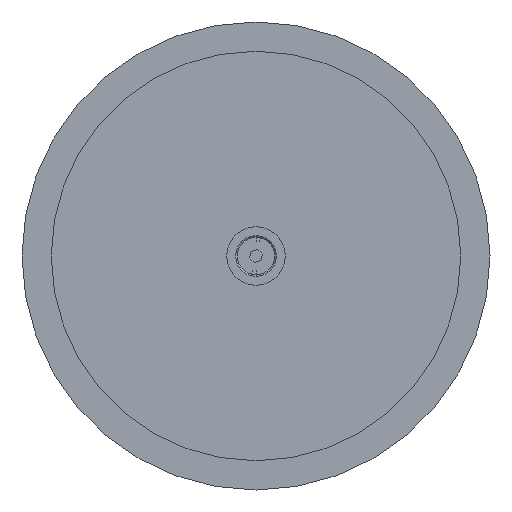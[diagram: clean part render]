
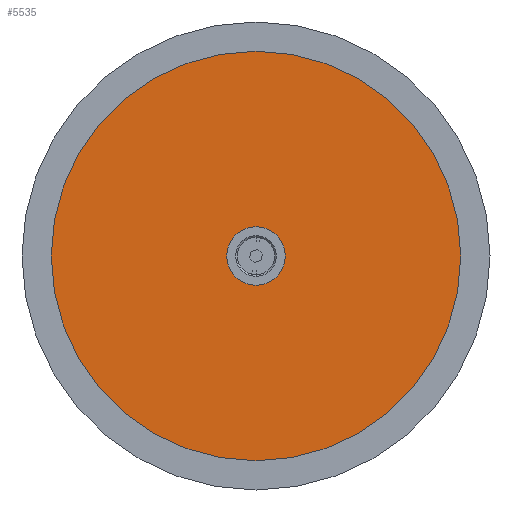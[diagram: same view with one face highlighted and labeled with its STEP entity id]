
A CAD part, front view. The second image highlights one B-rep face of the part: STEP entity #5535.
In plain terms, the highlighted planar face has unit normal (0, -1, 0).
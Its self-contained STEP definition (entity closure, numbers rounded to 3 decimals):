
#63 = ORIENTED_EDGE ( 'NONE', *, *, #6871, .T. ) ;
#209 = DIRECTION ( 'NONE',  ( 0., 1., 0. ) ) ;
#239 = CARTESIAN_POINT ( 'NONE',  ( 0., 0., 0. ) ) ;
#401 = CARTESIAN_POINT ( 'NONE',  ( 0., 0., 12.5 ) ) ;
#414 = CARTESIAN_POINT ( 'NONE',  ( 0., 0., 0. ) ) ;
#517 = VERTEX_POINT ( 'NONE', #5436 ) ;
#562 = ORIENTED_EDGE ( 'NONE', *, *, #7921, .F. ) ;
#577 = AXIS2_PLACEMENT_3D ( 'NONE', #10261, #6180, #5393 ) ;
#1171 = VERTEX_POINT ( 'NONE', #401 ) ;
#1455 = AXIS2_PLACEMENT_3D ( 'NONE', #414, #6056, #2018 ) ;
#1815 = DIRECTION ( 'NONE',  ( 0., 0., 1. ) ) ;
#2018 = DIRECTION ( 'NONE',  ( 0., 0., 1. ) ) ;
#2459 = AXIS2_PLACEMENT_3D ( 'NONE', #239, #5816, #1815 ) ;
#2589 = FACE_BOUND ( 'NONE', #9616, .T. ) ;
#2803 = CIRCLE ( 'NONE', #9759, 12.5 ) ;
#3705 = EDGE_CURVE ( 'NONE', #517, #10220, #4006, .T. ) ;
#3773 = EDGE_LOOP ( 'NONE', ( #7517, #562 ) ) ;
#3842 = DIRECTION ( 'NONE',  ( 0., 1., 0. ) ) ;
#4006 = CIRCLE ( 'NONE', #1455, 87.5 ) ;
#4735 = FACE_OUTER_BOUND ( 'NONE', #3773, .T. ) ;
#5073 = PLANE ( 'NONE',  #2459 ) ;
#5393 = DIRECTION ( 'NONE',  ( 0., 0., 1. ) ) ;
#5436 = CARTESIAN_POINT ( 'NONE',  ( 0., 0., -87.5 ) ) ;
#5535 = ADVANCED_FACE ( 'NONE', ( #4735, #2589 ), #5073, .F. ) ;
#5816 = DIRECTION ( 'NONE',  ( 0., 1., 0. ) ) ;
#6056 = DIRECTION ( 'NONE',  ( 0., 1., 0. ) ) ;
#6123 = CIRCLE ( 'NONE', #577, 12.5 ) ;
#6180 = DIRECTION ( 'NONE',  ( 0., 1., 0. ) ) ;
#6277 = CARTESIAN_POINT ( 'NONE',  ( 0., 0., 0. ) ) ;
#6386 = EDGE_CURVE ( 'NONE', #7554, #1171, #6123, .T. ) ;
#6624 = CARTESIAN_POINT ( 'NONE',  ( 0., 0., 0. ) ) ;
#6871 = EDGE_CURVE ( 'NONE', #1171, #7554, #2803, .T. ) ;
#7287 = ORIENTED_EDGE ( 'NONE', *, *, #6386, .T. ) ;
#7494 = CARTESIAN_POINT ( 'NONE',  ( 0., 0., -12.5 ) ) ;
#7517 = ORIENTED_EDGE ( 'NONE', *, *, #3705, .F. ) ;
#7554 = VERTEX_POINT ( 'NONE', #7494 ) ;
#7921 = EDGE_CURVE ( 'NONE', #10220, #517, #8589, .T. ) ;
#8089 = AXIS2_PLACEMENT_3D ( 'NONE', #6277, #3842, #9470 ) ;
#8131 = DIRECTION ( 'NONE',  ( 0., 0., 1. ) ) ;
#8589 = CIRCLE ( 'NONE', #8089, 87.5 ) ;
#9470 = DIRECTION ( 'NONE',  ( 0., 0., 1. ) ) ;
#9616 = EDGE_LOOP ( 'NONE', ( #7287, #63 ) ) ;
#9759 = AXIS2_PLACEMENT_3D ( 'NONE', #6624, #209, #8131 ) ;
#10220 = VERTEX_POINT ( 'NONE', #10330 ) ;
#10261 = CARTESIAN_POINT ( 'NONE',  ( 0., 0., 0. ) ) ;
#10330 = CARTESIAN_POINT ( 'NONE',  ( 0., 0., 87.5 ) ) ;
